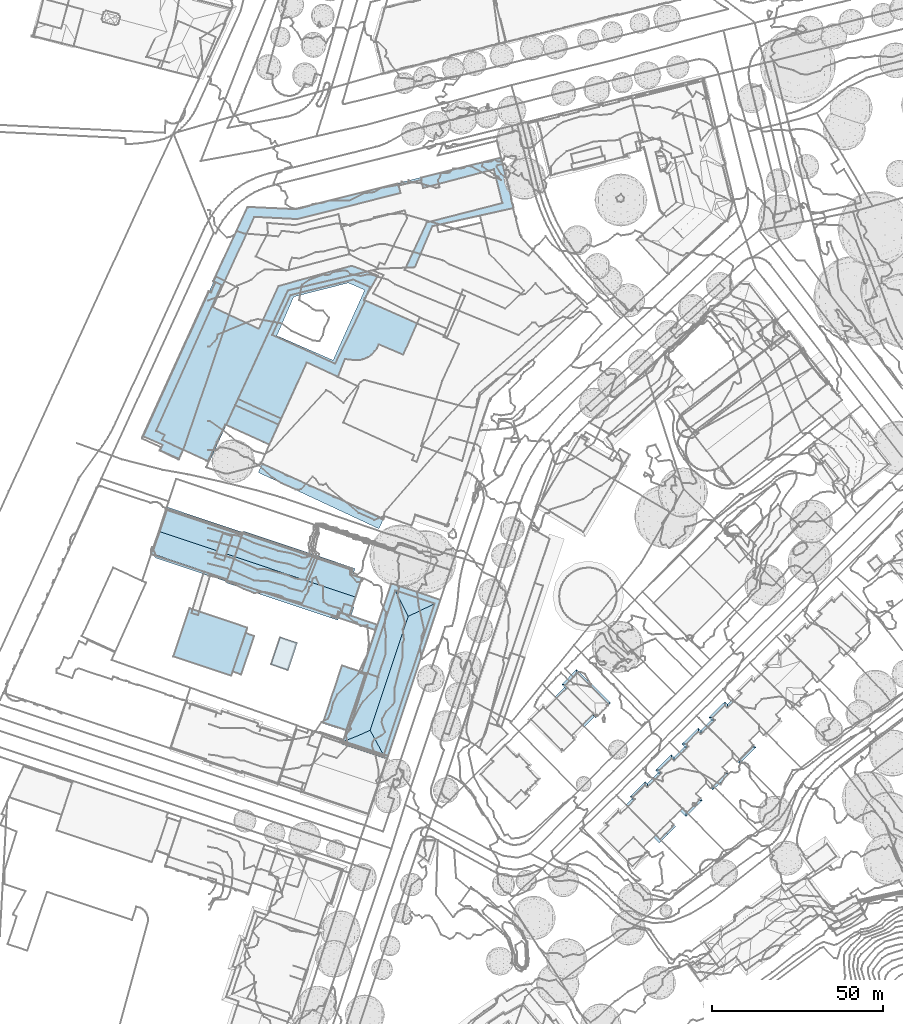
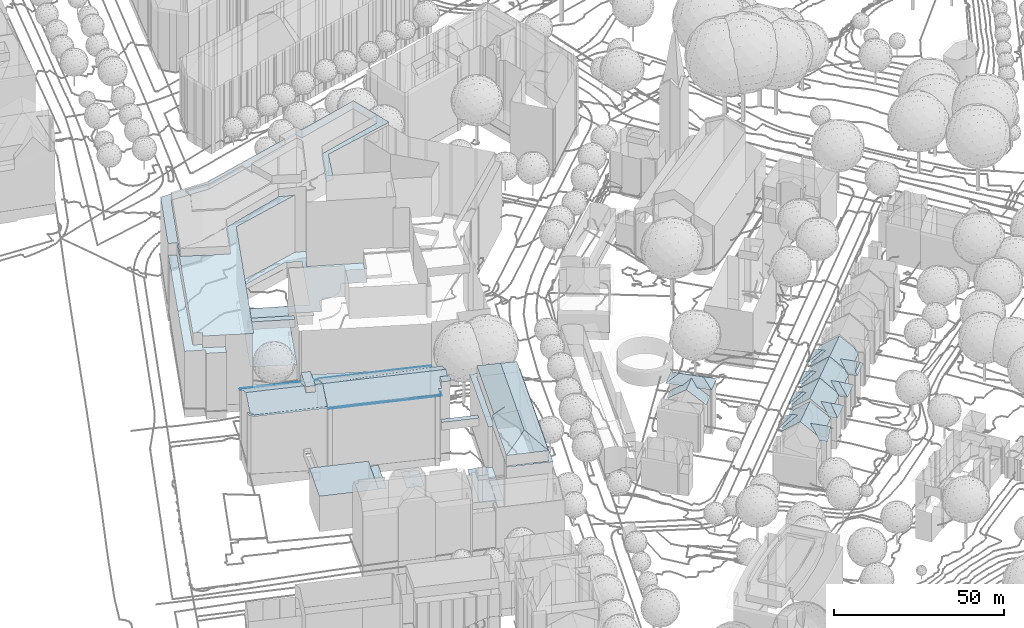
# Not in any storey, part 66 of 477: 24 roofs.
"""IFC4 building model written with IfcOpenShell, lengths in metres."""

from ifc_helpers import new_model, si_unit, frame, origin_with_axes, place, context, subcontext, project, spatial, polygons, element, save


model = new_model("IFC4")

# Units and contexts
model_context = context("Model", 3, precision=1e-05, world=origin_with_axes())
body_context = subcontext(model_context, "Body", "Model", "MODEL_VIEW")
ifc_project = project(units=[si_unit("AREAUNIT", "SQUARE_METRE"), si_unit("LENGTHUNIT", "METRE")], contexts=[model_context])

# Sites, building
site_1_placement = place(None, origin_with_axes())
site_1 = spatial("IfcSite", under=ifc_project, at=site_1_placement, Name="Topoexport Site")
site_2_placement = place(site_1_placement, origin_with_axes())
site_2 = spatial("IfcSite", under=site_1, at=site_2_placement, Name="TPX_BUILDINGS")
building_1_placement = place(site_2_placement, frame((-19.7342679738, 221.4617160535, 529.9572), z_axis=(0.0, 0.0, 1.0), x_axis=(1.0, 0.0, 0.0)))
building_1 = spatial("IfcBuilding", under=site_2, at=building_1_placement, Name="Building 139", CompositionType="ELEMENT")

# Roofs
roof_1_placement = place(None, frame((-19.7342679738, 221.4617160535, 529.9572), z_axis=(0.0, 0.0, 1.0), x_axis=(1.0, 0.0, 0.0)))
element("IfcRoof", 1, at=roof_1_placement, inside=building_1, Name="Roof 0", context=body_context, shape_type="Tessellation", body=[
    polygons([(5.6550000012, -2.4844000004, 23.7467), (10.4820000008, -6.5976000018, 23.7467), (4.993999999, -4.1132999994, 23.7467), (5.5020000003, -1.072300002, 23.7467), (3.7309999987, 1.5986000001, 23.7467), (11.6130000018, -3.942400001, 23.7467), (6.3049999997, 0.4395000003, 23.7467), (20.5639999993, 45.2509999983, 23.7468), (22.8310000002, 44.0722999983, 23.7468), (0.0, 0.0, 23.7467)], [[[3, 2, 1]], [[5, 1, 4]], [[2, 6, 1]], [[5, 4, 7]], [[4, 1, 6]], [[5, 9, 8]], [[5, 8, 10]], [[10, 1, 5]]]),
])
roof_2_placement = place(None, frame((-19.7342679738, 221.4617160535, 529.9572), z_axis=(0.0, 0.0, 1.0), x_axis=(1.0, 0.0, 0.0)))
element("IfcRoof", 2, at=roof_2_placement, inside=building_1, Name="Roof 1", context=body_context, shape_type="Tessellation", body=[
    polygons([(34.9979999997, -8.1894000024, 7.8582), (33.5130000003, -10.4668000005, 7.8582), (34.6500000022, -8.0312000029, 7.8582), (42.1409999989, -11.4081999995, 7.8582), (35.0250000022, -8.1308000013, 7.8582), (49.1140000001, -14.5849000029, 7.8582), (68.7219999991, -26.8905999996, 7.8581), (70.0470000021, -24.0507999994, 7.8581)], [[[3, 2, 1]], [[5, 1, 4]], [[2, 4, 1]], [[2, 6, 4]], [[6, 2, 7]], [[8, 6, 7]]]),
])
roof_3_placement = place(None, frame((-19.7342679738, 221.4617160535, 529.9572), z_axis=(0.0, 0.0, 1.0), x_axis=(1.0, 0.0, 0.0)))
element("IfcRoof", 3, at=roof_3_placement, inside=building_1, Name="Roof 2", context=body_context, shape_type="Tessellation", body=[
    polygons([(102.2939999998, 77.878899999, 27.9653), (104.5659999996, 81.4775999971, 27.9653), (104.7769999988, 68.0557000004, 27.9653), (108.068, 66.5859999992, 27.9653), (81.0370000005, 74.7460999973, 27.9653), (74.5170000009, 73.1171999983, 27.9653), (81.6960000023, 72.4179999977, 27.9653), (79.2180000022, 49.3017999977, 27.9653), (82.7039999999, 62.3525999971, 27.9653), (84.3440000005, 61.2782999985, 27.9653), (76.5700000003, 49.1963, 27.9653), (44.932, 66.5966999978, 27.9654), (75.1140000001, 70.9530999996, 27.9653), (42.2120000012, 42.5849999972, 27.9653), (39.4550000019, 43.8388999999, 27.9653), (60.7349999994, 49.7353999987, 27.9653), (32.3900000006, 64.0020000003, 27.9654), (44.868999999, 63.3554999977, 27.9654), (22.8310000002, 44.0722999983, 27.9653), (20.4820000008, 45.2929999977, 27.9654), (30.4869999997, 66.9687999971, 27.9654), (20.3310000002, 37.6767999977, 27.9653), (33.7100000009, 31.3662, 27.9653), (24.1750000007, 3.3046999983, 27.9653), (6.3049999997, 0.4395000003, 27.9653), (3.7309999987, 1.5986999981, 27.9653), (5.5020000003, -1.0722000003, 27.9653), (19.2100000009, -7.5088, 27.9653), (65.2490000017, 48.0497999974, 27.9653)], [[[3, 2, 1]], [[2, 3, 4]], [[6, 5, 2]], [[5, 7, 1]], [[5, 1, 2]], [[10, 9, 8]], [[4, 3, 10]], [[11, 8, 9]], [[9, 10, 3]], [[13, 6, 12]], [[16, 15, 14]], [[18, 12, 17]], [[18, 13, 12]], [[17, 20, 19]], [[20, 17, 21]], [[19, 22, 17]], [[21, 17, 12]], [[6, 2, 12]], [[15, 23, 14]], [[24, 23, 22]], [[22, 25, 24]], [[26, 25, 22]], [[28, 24, 27]], [[27, 24, 25]], [[19, 26, 22]], [[23, 24, 14]], [[16, 14, 29]]]),
])
roof_4_placement = place(None, frame((-19.7342679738, 221.4617160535, 529.9572), z_axis=(0.0, 0.0, 1.0), x_axis=(1.0, 0.0, 0.0)))
element("IfcRoof", 4, at=roof_4_placement, inside=building_1, Name="Roof 4", context=body_context, shape_type="Tessellation", body=[
    polygons([(39.4600000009, 3.4032999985, 19.3541), (26.8220000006, 9.0702999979, 19.3541), (27.637000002, 10.8427999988, 19.3541), (40.2659999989, 5.1796999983, 19.3541)], [[[3, 2, 1]], [[1, 4, 3]]]),
])
roof_5_placement = place(None, frame((-19.7342679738, 221.4617160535, 529.9572), z_axis=(0.0, 0.0, 1.0), x_axis=(1.0, 0.0, 0.0)))
element("IfcRoof", 5, at=roof_5_placement, inside=building_1, Name="Roof 12", context=body_context, shape_type="Tessellation", body=[
    polygons([(41.254999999, 37.4902999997, 7.4703), (42.1099999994, 42.3622999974, 7.3943), (43.8669999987, 40.7558999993, 7.3943), (38.0089999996, 33.4316999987, 7.5643), (36.6319999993, 30.432599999, 7.6263), (37.7980000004, 29.9237999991, 7.6263), (38.944000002, 29.4237999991, 7.6263), (59.8060000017, 44.8017999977, 7.3943), (65.2490000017, 48.0497999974, 7.3943), (68.4460000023, 46.8564999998, 7.3943), (68.324000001, 46.6415999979, 7.3943), (42.2120000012, 42.5849999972, 7.3943), (65.7789999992, 43.6728999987, 7.5753), (67.311999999, 44.8682000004, 7.5103), (64.5810000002, 42.7392999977, 7.6263), (65.7840000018, 42.1895000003, 7.6263), (65.0529999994, 40.9071999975, 7.6263), (64.7019999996, 40.2919999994, 7.6263), (64.7589999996, 40.2655999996, 7.6263), (64.4039999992, 39.7724999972, 7.6262), (75.8379999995, 23.7997999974, 7.6262), (68.7309999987, 26.8300999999, 7.6262), (79.8440000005, 32.9159999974, 7.6262), (66.6460000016, 23.8222999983, 7.6262), (65.6350000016, 23.0956999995, 7.6262), (64.0949999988, 22.4912, 7.6262), (58.8210000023, 22.557599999, 7.6262), (68.2120000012, 25.7734999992, 7.6262), (67.5040000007, 24.8407999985, 7.6262), (60.2910000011, 22.3642999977, 7.6262), (55.3520000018, 22.2597999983, 7.6262), (47.6970000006, 21.5683999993, 7.6262), (26.2149999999, 2.3779999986, 7.6262), (24.1920000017, 3.3427999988, 7.6262), (36.8099999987, -2.4404000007, 7.6262), (36.7180000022, -2.6328000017, 7.6262), (62.8170000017, 22.1816999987, 7.6262), (56.7750000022, 17.3319999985, 7.6262)], [[[3, 2, 1]], [[1, 2, 4]], [[6, 4, 5]], [[1, 6, 7]], [[1, 4, 6]], [[3, 1, 7]], [[10, 9, 8]], [[8, 11, 10]], [[2, 8, 9]], [[3, 8, 2]], [[2, 9, 12]], [[14, 8, 13]], [[8, 14, 11]], [[13, 8, 15]], [[16, 14, 13]], [[16, 13, 15]], [[17, 16, 15]], [[18, 17, 15]], [[19, 17, 18]], [[18, 15, 20]], [[23, 22, 21]], [[22, 23, 20]], [[26, 25, 24]], [[29, 28, 27]], [[27, 28, 22]], [[24, 29, 30]], [[27, 22, 20]], [[20, 15, 31]], [[6, 5, 32]], [[7, 6, 32]], [[34, 33, 32]], [[35, 32, 33]], [[33, 36, 35]], [[34, 32, 5]], [[7, 32, 31]], [[26, 30, 37]], [[26, 24, 30]], [[32, 38, 31]], [[38, 27, 31]], [[27, 20, 31]], [[27, 30, 29]]]),
])

# Building
building_2_placement = place(site_2_placement, frame((100.8207320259, 145.1316160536, 530.024), z_axis=(0.0, 0.0, 1.0), x_axis=(1.0, 0.0, 0.0)))
building_2 = spatial("IfcBuilding", under=site_2, at=building_2_placement, Name="Building 142", CompositionType="ELEMENT")

# Roof
roof_6_placement = place(None, frame((100.8207320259, 145.1316160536, 530.024), z_axis=(0.0, 0.0, 1.0), x_axis=(1.0, 0.0, 0.0)))
element("IfcRoof", 6, at=roof_6_placement, inside=building_2, Name="Roof 0", context=body_context, shape_type="Tessellation", body=[
    polygons([(11.300999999, -5.0879000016, 10.5939), (11.2789999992, -5.1103000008, 10.5939), (8.4510000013, -2.8877000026, 13.1377), (8.4510000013, -2.2070000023, 13.4777), (8.4519999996, -2.4951000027, 13.3337), (8.1460000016, -8.2928999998, 10.5939), (7.5650000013, -7.701100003, 11.1839), (3.8530000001, -3.9218000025, 14.9535), (8.2400000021, -0.0400000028, 14.6666), (8.2520000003, -2.2802000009, 13.5417), (8.2369999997, 0.5322999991, 14.9535), (8.251000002, -2.6894000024, 13.3377), (1.4250000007, 4.0284000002, 13.3377), (5.7910000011, 8.4638999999, 13.3377), (5.8210000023, 7.0322999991, 13.9946), (5.887000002, 3.8427999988, 15.4575), (2.7329999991, 3.9736999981, 13.9586), (15.7609999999, -1.3476000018, 13.3377), (14.7740000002, -1.3427000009, 13.7906), (11.1380000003, -1.326100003, 15.4575), (7.8960000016, 0.5284000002, 14.7826), (5.9959999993, 0.5068999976, 13.8287), (5.2280000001, 0.4980999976, 13.4437), (5.0150000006, 0.4941999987, 13.3377), (2.686999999, 3.625, 10.594), (5.0160000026, 0.6953999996, 13.2377), (4.8150000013, 0.6923999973, 13.1377), (5.5710000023, 0.7021999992, 13.5167), (-0.4399999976, 0.4483000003, 10.594), (11.3680000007, -5.201100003, 13.6147), (11.3949999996, -5.7851000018, 13.3377), (11.9090000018, -5.2627000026, 13.3377), (11.3680000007, -5.201100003, 13.4147), (11.3920000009, -5.1796000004, 13.4127), (10.512000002, -5.888600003, 10.444), (11.2789999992, -5.1103000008, 10.394), (10.512000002, -5.888600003, 10.544), (11.300999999, -5.0879000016, 10.394)], [[[3, 2, 1]], [[5, 1, 4]], [[3, 1, 5]], [[2, 7, 6]], [[7, 2, 3]], [[8, 7, 3]], [[8, 10, 9]], [[8, 9, 11]], [[10, 8, 12]], [[12, 8, 3]], [[15, 14, 13]], [[17, 16, 15]], [[13, 17, 15]], [[19, 18, 14]], [[20, 19, 15]], [[15, 16, 20]], [[14, 15, 19]], [[8, 11, 21]], [[8, 21, 22]], [[22, 23, 8]], [[8, 23, 24]], [[27, 26, 25]], [[25, 26, 28]], [[27, 29, 8]], [[29, 27, 25]], [[27, 8, 24]], [[30, 18, 19]], [[30, 19, 20]], [[32, 30, 31]], [[30, 32, 18]], [[13, 24, 23]], [[13, 23, 17]], [[16, 17, 21]], [[22, 21, 17]], [[17, 23, 22]], [[16, 21, 11]], [[10, 12, 30]], [[31, 30, 12]], [[11, 9, 20]], [[30, 9, 10]], [[9, 30, 20]], [[11, 20, 16]], [[34, 4, 33]], [[36, 35, 6]], [[1, 2, 37]], [[36, 38, 35]]]),
])

# Building
building_3_placement = place(site_2_placement, frame((-17.4142679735, 188.431416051, 525.0686), z_axis=(0.0, 0.0, 1.0), x_axis=(1.0, 0.0, 0.0)))
building_3 = spatial("IfcBuilding", under=site_2, at=building_3_placement, Name="Building 144", CompositionType="ELEMENT")

# Roofs
roof_7_placement = place(None, frame((-17.4142679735, 188.431416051, 525.0686), z_axis=(0.0, 0.0, 1.0), x_axis=(1.0, 0.0, 0.0)))
element("IfcRoof", 7, at=roof_7_placement, inside=building_3, Name="Roof 0", context=body_context, shape_type="Tessellation", body=[
    polygons([(1.5100000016, -1.4959999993, 25.3766), (2.512000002, 5.3057000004, 28.9223), (2.3909999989, -1.7909999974, 25.3756), (22.2760000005, -8.4432999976, 25.3766), (19.2309999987, -0.2889999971, 28.9102), (20.8229999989, 4.4698000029, 26.3665), (18.561999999, -2.2899999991, 27.8093), (24.4219999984, -2.0252999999, 28.9062), (21.311999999, -3.2098999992, 27.8073), (21.9809999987, -1.2088999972, 28.9082), (20.9279999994, 4.7832000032, 26.1975), (4.5980000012, 11.5391000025, 25.5766), (26.5080000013, 4.2090000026, 25.5726), (22.0329999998, 4.4131000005, 26.1975), (0.7120000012, -0.0760999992, 25.3406), (0.0370000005, -0.7274999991, 25.3406), (0.0, 0.0, 25.3406), (0.3359999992, -1.4696999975, 25.3406), (0.2430000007, 0.6953999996, 25.3406), (0.8969999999, 0.4776000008, 25.3406), (1.0260000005, -0.8104999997, 25.3406), (1.2349999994, -1.1053999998, 25.3406), (1.2069999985, -2.3192999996, 25.3406), (1.2600000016, -1.1405999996, 25.3436), (1.2349999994, -1.1053999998, 25.5606), (0.8969999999, 0.4776000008, 26.2815), (1.0260000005, -0.8104999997, 25.6706), (0.7120000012, -0.0760999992, 25.9805), (12.7789999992, -5.5868999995, 25.3346), (22.0929999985, -8.9891999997, 25.2986), (22.0100000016, -9.2381999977, 25.2986), (22.001000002, -9.2801999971, 25.2986), (23.6779999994, 3.8633000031, 26.1965)], [[[3, 2, 1]], [[4, 2, 3]], [[6, 2, 5]], [[2, 7, 5]], [[7, 2, 4]], [[9, 4, 8]], [[4, 9, 7]], [[8, 10, 9]], [[12, 2, 11]], [[11, 2, 6]], [[11, 14, 13]], [[11, 13, 12]], [[17, 16, 15]], [[15, 16, 18]], [[17, 15, 19]], [[20, 19, 15]], [[18, 22, 21]], [[22, 18, 23]], [[18, 21, 15]], [[23, 24, 22]], [[23, 1, 24]], [[1, 2, 25]], [[25, 2, 26]], [[27, 25, 26]], [[26, 28, 27]], [[23, 30, 29]], [[30, 4, 29]], [[3, 29, 4]], [[30, 23, 31]], [[32, 31, 23]], [[23, 29, 3]], [[23, 3, 1]], [[8, 13, 33]], [[14, 33, 13]], [[33, 10, 8]]]),
])
roof_8_placement = place(None, frame((-17.4142679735, 188.431416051, 525.0686), z_axis=(0.0, 0.0, 1.0), x_axis=(1.0, 0.0, 0.0)))
element("IfcRoof", 8, at=roof_8_placement, inside=building_3, Name="Roof 1", context=body_context, shape_type="Tessellation", body=[
    polygons([(26.5080000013, 4.2090000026, 25.3406), (4.1920000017, 11.6749000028, 25.3406), (21.7230000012, 6.2393000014, 25.3076), (26.6739999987, 4.7032000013, 25.2986), (26.7699999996, 4.9922000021, 25.2986), (26.8020000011, 5.067400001, 25.2986), (4.3370000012, 12.1456000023, 25.3406), (4.4600000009, 12.5430000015, 25.3406)], [[[3, 2, 1]], [[1, 4, 3]], [[4, 5, 3]], [[5, 6, 3]], [[8, 7, 3]], [[2, 3, 7]], [[8, 3, 6]]]),
])
roof_9_placement = place(None, frame((-17.4142679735, 188.431416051, 525.0686), z_axis=(0.0, 0.0, 1.0), x_axis=(1.0, 0.0, 0.0)))
element("IfcRoof", 9, at=roof_9_placement, inside=building_3, Name="Roof 2", context=body_context, shape_type="Tessellation", body=[
    polygons([(23.6779999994, 3.8633000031, 29.9971), (21.311999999, -3.2098999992, 29.9971), (18.561999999, -2.2899999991, 29.9971), (20.9279999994, 4.7832000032, 29.9971)], [[[3, 2, 1]], [[1, 4, 3]]]),
])

# Building
building_4_placement = place(site_2_placement, frame((-10.9342679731, 157.2918160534, 524.6136), z_axis=(0.0, 0.0, 1.0), x_axis=(1.0, 0.0, 0.0)))
building_4 = spatial("IfcBuilding", under=site_2, at=building_4_placement, Name="Building 146", CompositionType="ELEMENT")

# Roofs
roof_10_placement = place(None, frame((-10.9342679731, 157.2918160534, 524.6136), z_axis=(0.0, 0.0, 1.0), x_axis=(1.0, 0.0, 0.0)))
element("IfcRoof", 10, at=roof_10_placement, inside=building_4, Name="Roof 0", context=body_context, shape_type="Tessellation", body=[
    polygons([(4.6970000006, 14.0351999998, 12.7548), (21.5859999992, 8.3838, 12.7548), (17.2980000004, -4.4092000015, 12.7548), (16.8900000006, -5.6513999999, 12.7548), (0.0, 0.0, 12.7548)], [[[3, 2, 1]], [[3, 5, 4]], [[5, 3, 1]]]),
])
roof_11_placement = place(None, frame((-10.9342679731, 157.2918160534, 524.6136), z_axis=(0.0, 0.0, 1.0), x_axis=(1.0, 0.0, 0.0)))
element("IfcRoof", 11, at=roof_11_placement, inside=building_4, Name="Roof 1", context=body_context, shape_type="Tessellation", body=[
    polygons([(19.737999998, -5.4414000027, 12.0448), (21.0749999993, 6.8594000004, 12.0449), (23.5749999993, 6.0224999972, 12.0449), (17.2280000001, -4.6016000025, 12.0448), (17.2980000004, -4.4092000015, 12.0448)], [[[3, 2, 1]], [[5, 4, 1]], [[5, 1, 2]]]),
])

# Building
building_5_placement = place(site_2_placement, frame((4.678732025, 179.4422160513, 524.9256), z_axis=(0.0, 0.0, 1.0), x_axis=(1.0, 0.0, 0.0)))
building_5 = spatial("IfcBuilding", under=site_2, at=building_5_placement, Name="Building 147", CompositionType="ELEMENT")

# Roofs
roof_12_placement = place(None, frame((4.678732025, 179.4422160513, 524.9256), z_axis=(0.0, 0.0, 1.0), x_axis=(1.0, 0.0, 0.0)))
element("IfcRoof", 12, at=roof_12_placement, inside=building_5, Name="Roof 0", context=body_context, shape_type="Tessellation", body=[
    polygons([(36.5380000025, 3.0, 25.3995), (37.3530000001, 3.5791000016, 25.3995), (36.6700000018, 1.5391000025, 25.3995), (23.1359999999, 7.8456999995, 25.3996), (4.8440000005, 14.4600000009, 25.3996), (36.1120000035, 1.7266000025, 25.3995), (4.5810000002, 13.6933000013, 25.4416), (4.6790000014, 13.9805000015, 25.4256)], [[[3, 2, 1]], [[5, 4, 2]], [[1, 6, 3]], [[4, 1, 2]], [[8, 7, 4]], [[8, 4, 5]], [[4, 7, 1]]]),
])
roof_13_placement = place(None, frame((4.678732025, 179.4422160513, 524.9256), z_axis=(0.0, 0.0, 1.0), x_axis=(1.0, 0.0, 0.0)))
element("IfcRoof", 13, at=roof_13_placement, inside=building_5, Name="Roof 1", context=body_context, shape_type="Tessellation", body=[
    polygons([(-0.2129999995, -0.6523999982, 25.3996), (-0.0919999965, -0.2909999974, 25.4416), (32.2970000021, -11.5302999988, 25.3995), (0.0040000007, -0.0029000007, 25.4416), (22.4830000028, -7.3983999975, 25.4125), (33.0109999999, -9.3974999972, 25.3995), (32.0090000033, -10.5331999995, 25.3995), (33.0440000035, -9.2987999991, 25.3995), (32.4850000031, -9.1112999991, 25.3995)], [[[3, 2, 1]], [[5, 4, 2]], [[2, 3, 5]], [[7, 3, 6]], [[3, 7, 5]], [[9, 6, 8]], [[9, 7, 6]]]),
])
roof_14_placement = place(None, frame((4.678732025, 179.4422160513, 524.9256), z_axis=(0.0, 0.0, 1.0), x_axis=(1.0, 0.0, 0.0)))
element("IfcRoof", 14, at=roof_14_placement, inside=building_5, Name="Roof 2", context=body_context, shape_type="Tessellation", body=[
    polygons([(37.0270000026, -7.7480999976, 28.7292), (36.1590000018, -10.3407999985, 28.7292), (33.3580000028, -9.4032999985, 28.7292), (34.2250000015, -6.811499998, 28.7292)], [[[3, 2, 1]], [[4, 3, 1]]]),
])
roof_15_placement = place(None, frame((4.678732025, 179.4422160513, 524.9256), z_axis=(0.0, 0.0, 1.0), x_axis=(1.0, 0.0, 0.0)))
element("IfcRoof", 15, at=roof_15_placement, inside=building_5, Name="Roof 3", context=body_context, shape_type="Tessellation", body=[
    polygons([(43.6950000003, -12.8622999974, 15.3225), (32.5140000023, -10.8808999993, 15.3225), (33.0440000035, -9.2987999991, 15.3225), (43.1650000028, -14.4452999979, 15.3225)], [[[3, 2, 1]], [[4, 1, 2]]]),
])
roof_16_placement = place(None, frame((4.678732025, 179.4422160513, 524.9256), z_axis=(0.0, 0.0, 1.0), x_axis=(1.0, 0.0, 0.0)))
element("IfcRoof", 16, at=roof_16_placement, inside=building_5, Name="Roof 4", context=body_context, shape_type="Tessellation", body=[
    polygons([(32.0090000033, -10.5331999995, 25.7095), (22.4830000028, -7.3983999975, 25.7095), (32.4850000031, -9.1112999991, 26.4644), (1.9240000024, -0.5399999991, 25.7535), (0.0, 0.0, 25.7095), (1.325000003, -0.4375, 25.7095), (36.1120000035, 1.7266000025, 26.2385), (2.3289999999, 6.9638999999, 29.0492), (36.5380000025, 3.0, 25.7095), (4.5810000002, 13.6933000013, 25.9055), (33.3580000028, -9.4032999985, 26.4644), (0.1830000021, 0.5459000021, 25.9695), (37.512000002, -4.8085999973, 29.0332), (34.2250000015, -6.811499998, 27.7033), (36.5780000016, -7.5986000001, 27.7033), (39.3370000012, 0.6475000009, 26.2385), (8.0020000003, -2.6347999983, 25.6595), (0.0, -9.9998e-05, 25.5096), (8.0020000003, -2.6347999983, 25.5595), (1.325000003, -0.4375, 25.5097)], [[[3, 2, 1]], [[2, 3, 4]], [[6, 4, 5]], [[4, 6, 2]], [[9, 8, 7]], [[8, 9, 10]], [[3, 11, 8]], [[4, 3, 12]], [[5, 4, 12]], [[12, 3, 8]], [[8, 14, 13]], [[14, 8, 11]], [[15, 13, 14]], [[7, 8, 16]], [[13, 16, 8]], [[5, 17, 6]], [[20, 19, 18]]]),
])

# Building
building_6_placement = place(site_2_placement, frame((32.7697320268, 138.0096160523, 524.7246), z_axis=(0.0, 0.0, 1.0), x_axis=(1.0, 0.0, 0.0)))
building_6 = spatial("IfcBuilding", under=site_2, at=building_6_placement, Name="Building 149", CompositionType="ELEMENT")

# Roofs
roof_17_placement = place(None, frame((32.7697320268, 138.0096160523, 524.7246), z_axis=(0.0, 0.0, 1.0), x_axis=(1.0, 0.0, 0.0)))
element("IfcRoof", 17, at=roof_17_placement, inside=building_6, Name="Roof 0", context=body_context, shape_type="Tessellation", body=[
    polygons([(13.6369999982, -2.183600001, 29.4691), (17.7280000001, -9.3407999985, 25.1145), (17.6440000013, -9.5907999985, 25.1145), (24.7459999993, 31.0166000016, 29.4691), (32.4679999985, 34.7118999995, 25.1146), (21.006000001, 38.5469000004, 25.2756), (18.3990000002, 30.7558000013, 25.2755), (13.1889999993, 14.2197000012, 25.4925), (12.8979999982, 14.317400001, 25.2755), (16.256000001, 13.1953000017, 27.7763), (10.6539999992, -3.5430000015, 27.7763), (5.6220000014, -5.5694000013, 25.1145), (12.3390000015, 14.504900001, 25.1145), (12.3900000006, 14.4882999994, 25.1495), (5.8150000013, -4.9932000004, 25.1145), (12.8979999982, 14.317400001, 25.4945)], [[[3, 2, 1]], [[2, 4, 1]], [[4, 2, 5]], [[5, 6, 4]], [[9, 8, 7]], [[11, 1, 10]], [[10, 4, 7]], [[4, 10, 1]], [[6, 7, 4]], [[10, 7, 8]], [[11, 12, 3]], [[3, 1, 11]], [[15, 14, 13]], [[15, 12, 11]], [[16, 11, 10]], [[11, 16, 15]], [[15, 16, 14]]]),
])
roof_18_placement = place(None, frame((32.7697320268, 138.0096160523, 524.7246), z_axis=(0.0, 0.0, 1.0), x_axis=(1.0, 0.0, 0.0)))
element("IfcRoof", 18, at=roof_18_placement, inside=building_6, Name="Roof 1", context=body_context, shape_type="Tessellation", body=[
    polygons([(5.3990000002, -6.2373000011, 21.3649), (17.6440000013, -9.5907999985, 21.3649), (18.5909999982, -10.6504000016, 21.3649), (5.6229999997, -5.5694000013, 21.3649), (5.9189999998, -5.0273999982, 21.3649), (5.8159999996, -4.9932000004, 21.3649), (6.7419999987, -2.2226999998, 21.3649), (32.4679999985, 34.7118999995, 21.3649), (12.3900000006, 14.4882000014, 21.3649), (21.006000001, 38.5467999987, 21.3649), (12.8979999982, 14.317400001, 21.3649), (34.1409999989, 35.8242000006, 21.3649), (34.1330000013, 35.7822000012, 21.3649), (19.7190000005, 40.6493999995, 21.3649), (10.9439999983, 14.4228000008, 21.3649), (12.1739999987, 14.0106999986, 21.3649)], [[[3, 2, 1]], [[1, 2, 4]], [[7, 6, 5]], [[2, 3, 8]], [[11, 10, 9]], [[8, 13, 12]], [[8, 12, 10]], [[3, 13, 8]], [[10, 12, 14]], [[15, 9, 14]], [[9, 15, 16]], [[14, 9, 10]], [[9, 16, 7]], [[7, 5, 9]]]),
])
roof_19_placement = place(None, frame((32.7697320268, 138.0096160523, 524.7246), z_axis=(0.0, 0.0, 1.0), x_axis=(1.0, 0.0, 0.0)))
element("IfcRoof", 19, at=roof_19_placement, inside=building_6, Name="Roof 2", context=body_context, shape_type="Tessellation", body=[
    polygons([(6.7419999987, -2.2226999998, 6.7613), (6.7589999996, -2.4785000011, 6.7613), (-0.245000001, -0.2118999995, 6.7613), (6.8339999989, -2.2529999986, 6.7613), (10.9439999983, 14.4228000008, 6.7613), (12.1739999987, 14.0106999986, 6.7613), (11.0590000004, 14.7666000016, 6.7613), (11.2410000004, 14.7910000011, 6.7613), (11.2149999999, 14.7138000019, 6.7613), (5.2399999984, 16.7333999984, 6.7613)], [[[3, 2, 1]], [[1, 2, 4]], [[5, 3, 1]], [[1, 6, 5]], [[9, 8, 7]], [[5, 7, 10]], [[10, 7, 8]], [[5, 10, 3]]]),
])

# Building
building_7_placement = place(site_2_placement, frame((17.559732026, 155.003716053, 524.8416), z_axis=(0.0, 0.0, 1.0), x_axis=(1.0, 0.0, 0.0)))
building_7 = spatial("IfcBuilding", under=site_2, at=building_7_placement, Name="Building 150", CompositionType="ELEMENT")

# Roof
roof_20_placement = place(None, frame((17.559732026, 155.003716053, 524.8416), z_axis=(0.0, 0.0, 1.0), x_axis=(1.0, 0.0, 0.0)))
element("IfcRoof", 20, at=roof_20_placement, inside=building_7, Name="Roof 0", context=body_context, shape_type="Tessellation", body=[
    polygons([(7.6779999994, 6.2694999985, 6.9053), (4.8289999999, -1.629900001, 6.9053), (2.6380000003, 7.9873000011, 6.9053), (0.0, 0.0, 6.9053), (4.9680000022, -1.6845999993, 6.9053), (-0.0720000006, 0.0322000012, 6.9053)], [[[3, 2, 1]], [[2, 3, 4]], [[1, 2, 5]], [[4, 3, 6]]]),
])

# Building
building_8_placement = place(site_2_placement, frame((121.6327320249, 113.5477160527, 529.229), z_axis=(0.0, 0.0, 1.0), x_axis=(1.0, 0.0, 0.0)))
building_8 = spatial("IfcBuilding", under=site_2, at=building_8_placement, Name="Building 156", CompositionType="ELEMENT")

# Roof
roof_21_placement = place(None, frame((121.6327320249, 113.5477160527, 529.229), z_axis=(0.0, 0.0, 1.0), x_axis=(1.0, 0.0, 0.0)))
element("IfcRoof", 21, at=roof_21_placement, inside=building_8, Name="Roof 0", context=body_context, shape_type="Tessellation", body=[
    polygons([(15.1130000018, 0.3055999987, 12.0788), (12.2860000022, -4.1367999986, 11.1639), (7.1270000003, -3.6552999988, 14.2506), (7.3670000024, -7.4228999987, 12.0328), (3.699000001, -3.7265999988, 16.0844), (11.4760000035, 3.9510999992, 16.0845), (15.943, -0.5274000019, 11.1639), (-0.6099999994, 0.615199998, 11.1639), (6.063000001, 1.8095000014, 14.2506), (1.1100000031, 2.3134000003, 11.1639), (7.9900000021, 9.1063999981, 11.1639), (7.745000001, 7.6904000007, 11.8359), (5.569000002, 6.7157999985, 11.1639), (11.438000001, 3.9891999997, 16.0415), (8.5760000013, 8.5126999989, 11.8349), (5.7440000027, 6.5390000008, 11.1639), (6.1600000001, 6.1171000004, 11.1639), (5.8200000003, 5.7802000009, 11.6419), (1.2850000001, 2.1356999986, 11.1639), (2.0700000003, 2.0566000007, 11.6539), (1.7130000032, 1.7021000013, 11.1639), (4.9130000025, 2.9745999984, 14.2506), (1.5170000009, 2.9199000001, 11.8609), (4.9860000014, 7.3055999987, 11.1639), (0.5270000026, 2.9043000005, 11.1639), (1.5050000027, 2.7030999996, 11.1639), (1.8040000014, 2.4023000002, 11.5049), (1.256000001, 2.4580000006, 11.1639), (5.4260000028, 6.5751999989, 11.1639), (5.5080000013, 5.7635999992, 11.6739), (5.0620000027, 6.2137999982, 11.1639), (13.376000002, -5.2413000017, 11.1639), (11.1170000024, -7.697300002, 14.2506), (13.9230000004, -5.7950000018, 11.1639), (11.5510000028, -8.1358000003, 14.2506), (7.2810000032, -8.7159000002, 11.1639), (7.1870000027, -7.2402999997, 12.0328), (9.0990000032, -10.5577000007, 11.1639), (8.8890000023, 6.5428999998, 13.0068), (7.7480000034, 7.6933000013, 11.7849), (8.8490000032, 6.5830000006, 12.8938), (7.7480000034, 7.6933000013, 11.6859), (7.745000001, 7.6904000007, 11.6359)], [[[3, 2, 1]], [[3, 5, 4]], [[6, 5, 3]], [[6, 3, 1]], [[1, 2, 7]], [[5, 9, 8]], [[9, 5, 6]], [[8, 9, 10]], [[13, 12, 11]], [[9, 12, 13]], [[12, 9, 14]], [[14, 9, 6]], [[12, 15, 11]], [[18, 17, 16]], [[21, 20, 19]], [[24, 23, 22]], [[23, 24, 25]], [[28, 27, 26]], [[31, 30, 29]], [[22, 9, 24]], [[13, 24, 9]], [[23, 25, 10]], [[9, 22, 23]], [[9, 23, 10]], [[2, 33, 32]], [[33, 2, 3]], [[33, 35, 34]], [[33, 34, 32]], [[4, 37, 36]], [[3, 4, 33]], [[38, 33, 4]], [[35, 33, 38]], [[38, 4, 36]], [[40, 12, 39]], [[43, 42, 41]]]),
])

# Building
building_9_placement = place(site_2_placement, frame((145.0367320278, 136.7889160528, 530.3359), z_axis=(0.0, 0.0, 1.0), x_axis=(1.0, 0.0, 0.0)))
building_9 = spatial("IfcBuilding", under=site_2, at=building_9_placement, Name="Building 157", CompositionType="ELEMENT")

# Roof
roof_22_placement = place(None, frame((145.0367320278, 136.7889160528, 530.3359), z_axis=(0.0, 0.0, 1.0), x_axis=(1.0, 0.0, 0.0)))
element("IfcRoof", 22, at=roof_22_placement, inside=building_9, Name="Roof 0", context=body_context, shape_type="Tessellation", body=[
    polygons([(1.2390000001, 1.2303999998, 12.1458), (3.6909999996, -3.7382999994, 16.1654), (0.0, 0.0, 12.1508), (-0.563000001, 0.5702999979, 11.5389), (0.868999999, 1.9813999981, 11.5389), (5.7069999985, 1.9765000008, 14.1766), (5.5989999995, 5.5634000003, 12.1398), (11.4719999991, 3.942400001, 16.2304), (7.7559999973, 7.7080000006, 12.1308), (5.5669999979, 6.6220000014, 11.5389), (7.2190000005, 8.2518999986, 11.5389), (7.2099999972, -3.942400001, 14.2096), (7.0009999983, -7.0918000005, 12.5908), (10.9100000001, -7.6895000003, 14.2096), (9.2289999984, -9.3487000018, 12.1358), (7.1789999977, -8.8291000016, 11.5389), (10.9100000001, -7.6895000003, 12.1358), (9.2019999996, -9.5918000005, 12.0318), (9.3909999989, -9.188500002, 12.1358), (13.9199999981, -5.9688000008, 11.5389), (9.0759999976, -10.75, 11.5389), (12.5830000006, -6.0351999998, 12.1358), (12.7619999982, -5.8594000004, 12.1358), (8.4560000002, -10.1220999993, 11.5389), (12.0219999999, -4.0478999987, 11.5389), (14.7809999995, 0.5907999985, 12.5908), (14.8420000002, -0.4834000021, 11.9408), (14.9709999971, -1.1367000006, 11.5389), (1.993999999, 1.9803999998, 12.1518), (4.8559999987, 6.2558000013, 12.1718), (4.8189999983, 7.379900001, 11.5389), (4.998999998, 2.6952999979, 14.1766), (1.3139999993, 2.7236000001, 12.1848), (0.1199999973, 2.7412, 11.5389), (13.2839999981, -5.3251999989, 11.5389)], [[[3, 2, 1]], [[5, 4, 3]], [[5, 3, 1]], [[8, 7, 6]], [[7, 8, 9]], [[9, 11, 10]], [[9, 10, 7]], [[2, 13, 12]], [[14, 12, 13]], [[14, 13, 15]], [[15, 13, 16]], [[19, 18, 17]], [[19, 15, 18]], [[18, 21, 20]], [[18, 22, 17]], [[18, 20, 23]], [[22, 18, 23]], [[21, 18, 24]], [[15, 16, 24]], [[15, 24, 18]], [[26, 8, 25]], [[12, 25, 8]], [[8, 2, 12]], [[26, 25, 27]], [[27, 25, 28]], [[5, 1, 29]], [[29, 1, 2]], [[6, 2, 8]], [[2, 6, 29]], [[31, 30, 10]], [[10, 30, 7]], [[7, 32, 6]], [[32, 7, 30]], [[30, 31, 33]], [[30, 33, 32]], [[33, 31, 34]], [[20, 35, 23]], [[23, 35, 25]], [[25, 12, 14]], [[25, 14, 23]], [[6, 32, 29]], [[29, 32, 33]], [[33, 34, 5]], [[33, 5, 29]]]),
])

# Building
building_10_placement = place(site_2_placement, frame((129.3807320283, 121.2410160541, 529.389), z_axis=(0.0, 0.0, 1.0), x_axis=(1.0, 0.0, 0.0)))
building_10 = spatial("IfcBuilding", under=site_2, at=building_10_placement, Name="Building 158", CompositionType="ELEMENT")

# Roof
roof_23_placement = place(None, frame((129.3807320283, 121.2410160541, 529.389), z_axis=(0.0, 0.0, 1.0), x_axis=(1.0, 0.0, 0.0)))
element("IfcRoof", 23, at=roof_23_placement, inside=building_10, Name="Roof 0", context=body_context, shape_type="Tessellation", body=[
    polygons([(2.0789999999, 2.1620999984, 12.7268), (1.1019999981, -1.1103000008, 14.0086), (0.9809999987, 2.1835999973, 12.1118), (-0.6050000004, 0.6191999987, 12.1118), (0.0, 0.0, 12.7878), (5.7629999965, 2.0859999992, 14.7906), (3.6479999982, -3.6904000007, 16.8384), (6.4289999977, 6.3818999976, 12.7678), (11.436999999, 4.0, 16.8384), (5.6549999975, 5.6562999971, 12.7468), (5.6219999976, 6.7646999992, 12.1118), (7.7709999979, 7.7148999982, 12.7588), (7.1829999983, 8.3085999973, 12.1058), (5.0279999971, 2.8339999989, 14.7906), (4.9139999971, 6.2929999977, 12.8148), (1.4979999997, 2.9140999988, 12.8188), (0.2329999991, 2.9423999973, 12.1118), (4.8729999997, 7.5234999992, 12.1118), (7.3229999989, -3.9414000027, 14.6886), (7.3149999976, -7.4043000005, 12.7767), (12.0719999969, -3.9072000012, 12.1118), (11.6619999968, -5.9326000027, 13.3777), (15.1030000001, 0.2861000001, 12.7887), (15.0709999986, -0.9463, 12.1058), (9.4109999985, -6.0566000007, 14.6356), (9.242999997, -8.3222000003, 13.3767), (12.9469999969, -5.875, 12.6727), (9.0969999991, -10.6396000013, 12.1118), (9.186999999, -9.2129000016, 12.8897), (13.9699999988, -5.8291000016, 12.1118), (13.3809999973, -5.2334000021, 12.1118), (7.2009999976, -8.7168000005, 12.1118), (8.4499999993, -8.4756000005, 12.8857), (7.4419999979, -7.4638999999, 12.8157), (0.4569999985, -0.4599000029, 13.2437), (0.4569999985, -0.4599000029, 13.1437), (0.0, 0.0, 12.5878), (-0.6050000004, 0.6191999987, 11.9118)], [[[3, 2, 1]], [[5, 3, 4]], [[3, 5, 2]], [[2, 7, 6]], [[6, 9, 8]], [[9, 6, 7]], [[6, 8, 10]], [[11, 10, 8]], [[6, 1, 2]], [[13, 11, 12]], [[12, 11, 8]], [[8, 9, 12]], [[6, 10, 14]], [[15, 14, 10]], [[10, 11, 15]], [[17, 3, 16]], [[16, 3, 1]], [[1, 6, 14]], [[1, 14, 16]], [[15, 18, 16]], [[15, 16, 14]], [[16, 18, 17]], [[18, 15, 11]], [[20, 19, 7]], [[19, 9, 7]], [[21, 9, 19]], [[21, 19, 22]], [[21, 23, 9]], [[23, 21, 24]], [[22, 19, 25]], [[26, 22, 25]], [[29, 28, 27]], [[26, 29, 22]], [[27, 22, 29]], [[30, 27, 28]], [[31, 21, 27]], [[31, 27, 30]], [[27, 21, 22]], [[33, 32, 29]], [[29, 26, 33]], [[28, 29, 32]], [[33, 26, 34]], [[32, 34, 20]], [[34, 32, 33]], [[26, 25, 34]], [[20, 34, 25]], [[25, 19, 20]], [[5, 4, 35]], [[38, 37, 36]]]),
])

# Building
building_11_placement = place(site_2_placement, frame((137.1517320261, 128.9559160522, 529.729), z_axis=(0.0, 0.0, 1.0), x_axis=(1.0, 0.0, 0.0)))
building_11 = spatial("IfcBuilding", under=site_2, at=building_11_placement, Name="Building 159", CompositionType="ELEMENT")

# Roof
roof_24_placement = place(None, frame((137.1517320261, 128.9559160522, 529.729), z_axis=(0.0, 0.0, 1.0), x_axis=(1.0, 0.0, 0.0)))
element("IfcRoof", 24, at=roof_24_placement, inside=building_11, Name="Roof 0", context=body_context, shape_type="Tessellation", body=[
    polygons([(7.3320000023, -7.4287, 12.4487), (9.0969999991, -5.6865999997, 14.4656), (7.3000000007, -8.6611999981, 11.7658), (7.3650000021, -3.9316999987, 14.4656), (3.6660000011, -3.7148999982, 16.7083), (14.8859999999, 0.7412, 12.8677), (15.0639999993, -0.996100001, 11.7578), (12.1390000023, -3.8847999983, 11.7578), (12.9100000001, -5.7793000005, 12.3757), (13.4239999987, -5.1875, 11.7578), (14.0360000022, -5.8066999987, 11.7578), (9.1960000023, -10.5839999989, 11.7578), (9.1790000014, -9.6143000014, 12.2938), (8.5989999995, -9.9794999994, 11.7608), (5.7239999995, 5.6865000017, 12.4198), (11.5760000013, 4.0947000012, 16.7723), (5.7919999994, 1.933600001, 14.6425), (5.7039999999, 6.8037, 11.7578), (0.0, 0.0, 12.4478), (-0.5879999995, 0.5936999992, 11.7658), (0.9149999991, 0.9101000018, 12.4438), (2.0360000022, 2.0234000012, 12.4318), (0.8909999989, 2.0507000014, 11.7578), (1.4470000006, 2.8143999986, 12.5478), (0.1420000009, 2.8095000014, 11.7578), (4.9070000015, 2.8291000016, 14.6425), (4.943, 6.3407999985, 12.5028), (4.9550000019, 7.5625, 11.7578), (7.8850000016, 7.8330000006, 12.4218), (7.3220000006, 8.4032999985, 11.7578)], [[[3, 2, 1]], [[4, 1, 2]], [[5, 1, 4]], [[6, 5, 4]], [[7, 6, 4]], [[4, 8, 7]], [[11, 10, 9]], [[9, 10, 2]], [[4, 2, 10]], [[4, 10, 8]], [[13, 12, 11]], [[9, 2, 13]], [[11, 9, 13]], [[12, 13, 14]], [[13, 2, 3]], [[13, 3, 14]], [[17, 16, 15]], [[16, 18, 15]], [[5, 16, 17]], [[21, 20, 19]], [[5, 17, 21]], [[5, 21, 19]], [[6, 16, 5]], [[23, 20, 22]], [[21, 17, 22]], [[21, 22, 20]], [[25, 23, 24]], [[24, 23, 22]], [[22, 17, 26]], [[22, 26, 24]], [[17, 15, 26]], [[26, 15, 27]], [[27, 18, 28]], [[18, 27, 15]], [[27, 28, 25]], [[27, 24, 26]], [[24, 27, 25]], [[30, 18, 29]], [[29, 18, 16]]]),
])

save(model, "model.ifc")
